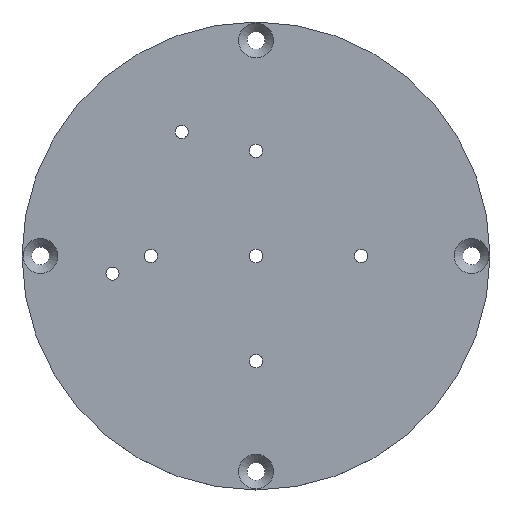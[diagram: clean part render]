
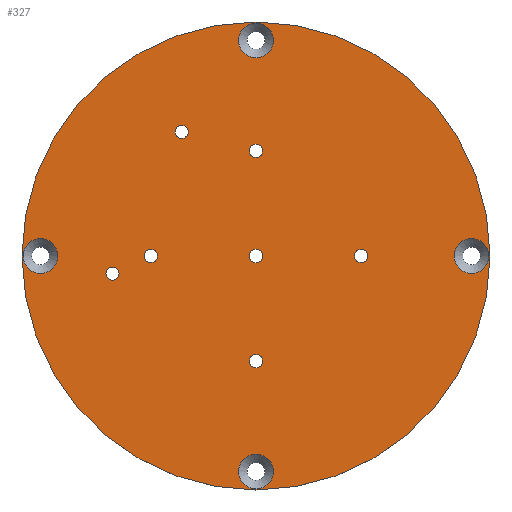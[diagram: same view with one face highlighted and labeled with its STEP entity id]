
A CAD part, top view. The second image highlights one B-rep face of the part: STEP entity #327.
In plain terms, the highlighted planar face has unit normal (0, 0, 1).
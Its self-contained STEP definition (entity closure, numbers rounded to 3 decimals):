
#10 = DIRECTION ( 'NONE',  ( 1., 0., 0. ) ) ;
#17 = AXIS2_PLACEMENT_3D ( 'NONE', #628, #270, #10 ) ;
#30 = DIRECTION ( 'NONE',  ( 0., 0., 1. ) ) ;
#31 = EDGE_CURVE ( 'NONE', #538, #538, #484, .T. ) ;
#33 = FACE_BOUND ( 'NONE', #558, .T. ) ;
#36 = AXIS2_PLACEMENT_3D ( 'NONE', #525, #172, #237 ) ;
#38 = AXIS2_PLACEMENT_3D ( 'NONE', #168, #119, #177 ) ;
#40 = CARTESIAN_POINT ( 'NONE',  ( 20., 0., 2. ) ) ;
#43 = CARTESIAN_POINT ( 'NONE',  ( 1.25, 0., 2. ) ) ;
#45 = VERTEX_POINT ( 'NONE', #43 ) ;
#54 = DIRECTION ( 'NONE',  ( 0., 0., 1. ) ) ;
#59 = EDGE_CURVE ( 'NONE', #288, #288, #407, .T. ) ;
#70 = FACE_BOUND ( 'NONE', #604, .T. ) ;
#72 = ORIENTED_EDGE ( 'NONE', *, *, #627, .F. ) ;
#80 = FACE_BOUND ( 'NONE', #341, .T. ) ;
#83 = CARTESIAN_POINT ( 'NONE',  ( -28.545, -3.351, 2. ) ) ;
#84 = PLANE ( 'NONE',  #307 ) ;
#90 = AXIS2_PLACEMENT_3D ( 'NONE', #516, #164, #468 ) ;
#92 = ORIENTED_EDGE ( 'NONE', *, *, #303, .F. ) ;
#101 = FACE_OUTER_BOUND ( 'NONE', #506, .T. ) ;
#109 = DIRECTION ( 'NONE',  ( 1., 0., 0. ) ) ;
#110 = CIRCLE ( 'NONE', #641, 3.3 ) ;
#119 = DIRECTION ( 'NONE',  ( 0., 0., -1. ) ) ;
#133 = ORIENTED_EDGE ( 'NONE', *, *, #442, .F. ) ;
#136 = CIRCLE ( 'NONE', #324, 1.25 ) ;
#137 = CIRCLE ( 'NONE', #476, 1.25 ) ;
#141 = ORIENTED_EDGE ( 'NONE', *, *, #651, .F. ) ;
#142 = DIRECTION ( 'NONE',  ( 1., 0., 0. ) ) ;
#145 = VERTEX_POINT ( 'NONE', #658 ) ;
#149 = CARTESIAN_POINT ( 'NONE',  ( 1.25, -20., 2. ) ) ;
#152 = CARTESIAN_POINT ( 'NONE',  ( 0., 0., 2. ) ) ;
#164 = DIRECTION ( 'NONE',  ( 0., 0., 1. ) ) ;
#167 = AXIS2_PLACEMENT_3D ( 'NONE', #40, #30, #142 ) ;
#168 = CARTESIAN_POINT ( 'NONE',  ( -14.118, 23.6, 2. ) ) ;
#172 = DIRECTION ( 'NONE',  ( 0., 0., 1. ) ) ;
#175 = FACE_BOUND ( 'NONE', #205, .T. ) ;
#177 = DIRECTION ( 'NONE',  ( -1., 0., 0. ) ) ;
#190 = EDGE_LOOP ( 'NONE', ( #434 ) ) ;
#192 = DIRECTION ( 'NONE',  ( 1., 0., 0. ) ) ;
#198 = AXIS2_PLACEMENT_3D ( 'NONE', #292, #325, #634 ) ;
#199 = EDGE_CURVE ( 'NONE', #510, #510, #110, .T. ) ;
#201 = CARTESIAN_POINT ( 'NONE',  ( 21.25, 0., 2. ) ) ;
#205 = EDGE_LOOP ( 'NONE', ( #305 ) ) ;
#206 = VERTEX_POINT ( 'NONE', #345 ) ;
#213 = CARTESIAN_POINT ( 'NONE',  ( 41., 0., 2. ) ) ;
#225 = FACE_BOUND ( 'NONE', #611, .T. ) ;
#233 = ORIENTED_EDGE ( 'NONE', *, *, #475, .F. ) ;
#237 = DIRECTION ( 'NONE',  ( 1., 0., 0. ) ) ;
#241 = CARTESIAN_POINT ( 'NONE',  ( 0., 20., 2. ) ) ;
#243 = CIRCLE ( 'NONE', #167, 1.25 ) ;
#248 = CARTESIAN_POINT ( 'NONE',  ( -15.368, 23.6, 2. ) ) ;
#252 = CIRCLE ( 'NONE', #396, 3.3 ) ;
#254 = CARTESIAN_POINT ( 'NONE',  ( 44.3, 0., 2. ) ) ;
#255 = EDGE_LOOP ( 'NONE', ( #639 ) ) ;
#256 = VERTEX_POINT ( 'NONE', #549 ) ;
#257 = EDGE_CURVE ( 'NONE', #145, #145, #296, .T. ) ;
#264 = DIRECTION ( 'NONE',  ( 0., 0., 1. ) ) ;
#270 = DIRECTION ( 'NONE',  ( 0., 0., 1. ) ) ;
#276 = FACE_BOUND ( 'NONE', #553, .T. ) ;
#286 = FACE_BOUND ( 'NONE', #255, .T. ) ;
#288 = VERTEX_POINT ( 'NONE', #545 ) ;
#292 = CARTESIAN_POINT ( 'NONE',  ( 0., 0., 2. ) ) ;
#296 = CIRCLE ( 'NONE', #36, 3.3 ) ;
#303 = EDGE_CURVE ( 'NONE', #206, #206, #136, .T. ) ;
#305 = ORIENTED_EDGE ( 'NONE', *, *, #257, .F. ) ;
#306 = AXIS2_PLACEMENT_3D ( 'NONE', #461, #357, #362 ) ;
#307 = AXIS2_PLACEMENT_3D ( 'NONE', #152, #54, #496 ) ;
#309 = ORIENTED_EDGE ( 'NONE', *, *, #550, .T. ) ;
#313 = DIRECTION ( 'NONE',  ( 0., 0., 1. ) ) ;
#323 = FACE_BOUND ( 'NONE', #504, .T. ) ;
#324 = AXIS2_PLACEMENT_3D ( 'NONE', #482, #573, #625 ) ;
#325 = DIRECTION ( 'NONE',  ( 0., 0., 1. ) ) ;
#327 = ADVANCED_FACE ( 'NONE', ( #581, #80, #286, #323, #70, #276, #478, #225, #175, #606, #33, #101 ), #84, .T. ) ;
#341 = EDGE_LOOP ( 'NONE', ( #309 ) ) ;
#344 = ORIENTED_EDGE ( 'NONE', *, *, #59, .T. ) ;
#345 = CARTESIAN_POINT ( 'NONE',  ( -18.75, 0., 2. ) ) ;
#349 = VERTEX_POINT ( 'NONE', #406 ) ;
#357 = DIRECTION ( 'NONE',  ( 0., 0., -1. ) ) ;
#361 = DIRECTION ( 'NONE',  ( 0., 0., 1. ) ) ;
#362 = DIRECTION ( 'NONE',  ( -1., 0., 0. ) ) ;
#368 = DIRECTION ( 'NONE',  ( 1., 0., 0. ) ) ;
#387 = CIRCLE ( 'NONE', #17, 1.25 ) ;
#390 = ORIENTED_EDGE ( 'NONE', *, *, #31, .T. ) ;
#396 = AXIS2_PLACEMENT_3D ( 'NONE', #481, #264, #368 ) ;
#400 = EDGE_CURVE ( 'NONE', #650, #650, #485, .T. ) ;
#402 = VERTEX_POINT ( 'NONE', #248 ) ;
#406 = CARTESIAN_POINT ( 'NONE',  ( 3.3, 41., 2. ) ) ;
#407 = CIRCLE ( 'NONE', #198, 44.5 ) ;
#424 = EDGE_LOOP ( 'NONE', ( #141 ) ) ;
#434 = ORIENTED_EDGE ( 'NONE', *, *, #199, .F. ) ;
#435 = DIRECTION ( 'NONE',  ( 0., 0., 1. ) ) ;
#442 = EDGE_CURVE ( 'NONE', #256, #256, #252, .T. ) ;
#446 = ORIENTED_EDGE ( 'NONE', *, *, #400, .F. ) ;
#450 = AXIS2_PLACEMENT_3D ( 'NONE', #241, #313, #192 ) ;
#461 = CARTESIAN_POINT ( 'NONE',  ( -27.295, -3.351, 2. ) ) ;
#468 = DIRECTION ( 'NONE',  ( 1., 0., 0. ) ) ;
#475 = EDGE_CURVE ( 'NONE', #349, #349, #613, .T. ) ;
#476 = AXIS2_PLACEMENT_3D ( 'NONE', #483, #435, #640 ) ;
#478 = FACE_BOUND ( 'NONE', #424, .T. ) ;
#481 = CARTESIAN_POINT ( 'NONE',  ( -41., 0., 2. ) ) ;
#482 = CARTESIAN_POINT ( 'NONE',  ( -20., 0., 2. ) ) ;
#483 = CARTESIAN_POINT ( 'NONE',  ( 0., -20., 2. ) ) ;
#484 = CIRCLE ( 'NONE', #306, 1.25 ) ;
#485 = CIRCLE ( 'NONE', #450, 1.25 ) ;
#487 = EDGE_CURVE ( 'NONE', #45, #45, #387, .T. ) ;
#493 = EDGE_LOOP ( 'NONE', ( #390 ) ) ;
#496 = DIRECTION ( 'NONE',  ( 1., 0., 0. ) ) ;
#504 = EDGE_LOOP ( 'NONE', ( #446 ) ) ;
#506 = EDGE_LOOP ( 'NONE', ( #344 ) ) ;
#510 = VERTEX_POINT ( 'NONE', #254 ) ;
#516 = CARTESIAN_POINT ( 'NONE',  ( 0., 41., 2. ) ) ;
#525 = CARTESIAN_POINT ( 'NONE',  ( 0., -41., 2. ) ) ;
#538 = VERTEX_POINT ( 'NONE', #83 ) ;
#545 = CARTESIAN_POINT ( 'NONE',  ( 44.5, 0., 2. ) ) ;
#549 = CARTESIAN_POINT ( 'NONE',  ( -37.7, 0., 2. ) ) ;
#550 = EDGE_CURVE ( 'NONE', #402, #402, #589, .T. ) ;
#552 = VERTEX_POINT ( 'NONE', #201 ) ;
#553 = EDGE_LOOP ( 'NONE', ( #72 ) ) ;
#558 = EDGE_LOOP ( 'NONE', ( #233 ) ) ;
#573 = DIRECTION ( 'NONE',  ( 0., 0., 1. ) ) ;
#581 = FACE_BOUND ( 'NONE', #493, .T. ) ;
#589 = CIRCLE ( 'NONE', #38, 1.25 ) ;
#600 = VERTEX_POINT ( 'NONE', #149 ) ;
#604 = EDGE_LOOP ( 'NONE', ( #92 ) ) ;
#606 = FACE_BOUND ( 'NONE', #190, .T. ) ;
#611 = EDGE_LOOP ( 'NONE', ( #133 ) ) ;
#613 = CIRCLE ( 'NONE', #90, 3.3 ) ;
#625 = DIRECTION ( 'NONE',  ( 1., 0., 0. ) ) ;
#627 = EDGE_CURVE ( 'NONE', #600, #600, #137, .T. ) ;
#628 = CARTESIAN_POINT ( 'NONE',  ( 0., 0., 2. ) ) ;
#634 = DIRECTION ( 'NONE',  ( 1., 0., 0. ) ) ;
#639 = ORIENTED_EDGE ( 'NONE', *, *, #487, .F. ) ;
#640 = DIRECTION ( 'NONE',  ( 1., 0., 0. ) ) ;
#641 = AXIS2_PLACEMENT_3D ( 'NONE', #213, #361, #109 ) ;
#650 = VERTEX_POINT ( 'NONE', #656 ) ;
#651 = EDGE_CURVE ( 'NONE', #552, #552, #243, .T. ) ;
#656 = CARTESIAN_POINT ( 'NONE',  ( 1.25, 20., 2. ) ) ;
#658 = CARTESIAN_POINT ( 'NONE',  ( 3.3, -41., 2. ) ) ;
